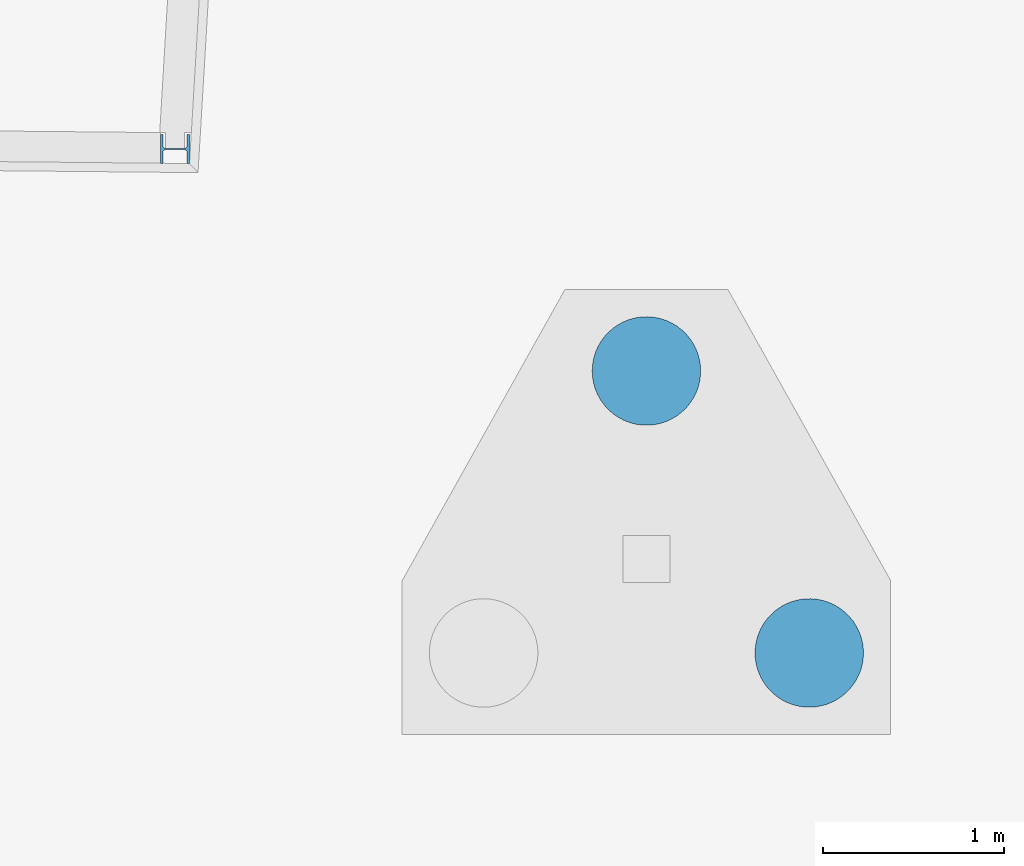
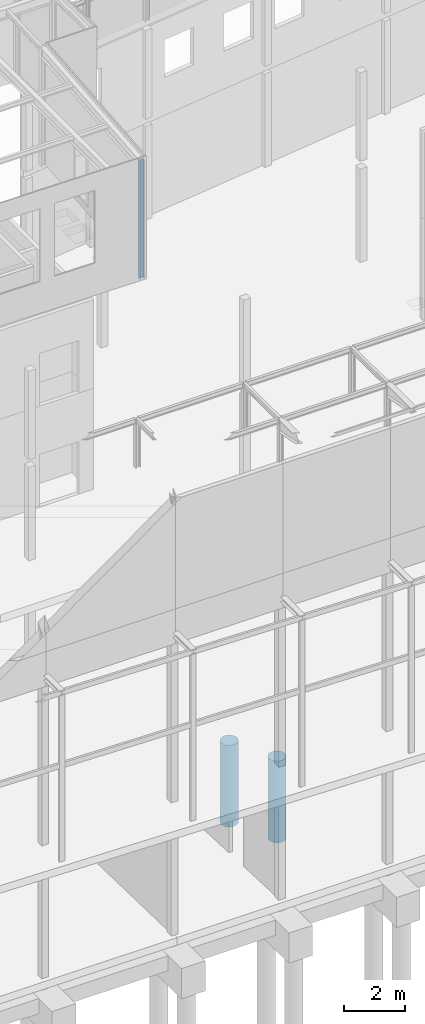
# One storey, part 39 of 82: 3 columns.
"""IFC2X3 building model written with IfcOpenShell, lengths in millimetres."""

from ifc_helpers import new_model, si_unit, frame, frame_2d, origin_with_axes, place, context, subcontext, project, spatial, circle, i_section, extrude, material, type_object, element, save


model = new_model("IFC2X3")

# Units and contexts
model_context = context("Model", 3, precision=1e-05, world=origin_with_axes())
body_context = subcontext(model_context, "Body", "Model", "MODEL_VIEW")
ifc_project = project(units=[si_unit("LENGTHUNIT", "METRE", prefix="MILLI"), si_unit("AREAUNIT", "SQUARE_METRE"), si_unit("VOLUMEUNIT", "CUBIC_METRE"), si_unit("MASSUNIT", "GRAM", prefix="KILO"), si_unit("TIMEUNIT", "SECOND"), si_unit("PLANEANGLEUNIT", "RADIAN"), si_unit("SOLIDANGLEUNIT", "STERADIAN"), si_unit("THERMODYNAMICTEMPERATUREUNIT", "DEGREE_CELSIUS"), si_unit("LUMINOUSINTENSITYUNIT", "LUMEN")], contexts=[model_context])

# Site, building, storey
site_placement = place(None, origin_with_axes())
site = spatial("IfcSite", under=ifc_project, at=site_placement, Name="Undefined", CompositionType="ELEMENT")
building_placement = place(site_placement, origin_with_axes())
building = spatial("IfcBuilding", under=site, at=building_placement, Name="Undefined", CompositionType="ELEMENT")
storey_placement = place(building_placement, origin_with_axes())
storey = spatial("IfcBuildingStorey", under=building, at=storey_placement, Name="Undefined", CompositionType="ELEMENT", Elevation=0.0)

# Columns
ifc_material_1 = material(Name="STEEL/S275JR")
column_type_1 = type_object("IfcColumnType", Name="HEB160", PredefinedType="NOTDEFINED")
column_placement = place(storey_placement, frame((34744.3131409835, 11566.2183908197, 17160.0), z_axis=(0.0, 0.0, 1.0), x_axis=(1.0, 0.0, 0.0)))
element("IfcColumn", 1, at=column_placement, inside=storey, type_object=column_type_1, material=ifc_material_1, Name="POTEAU", ObjectType="HEB160", context=body_context, shape_type="SweptSolid", body=[
    extrude(i_section(OverallWidth=160.0, OverallDepth=160.0, WebThickness=8.0, FlangeThickness=13.0, FilletRadius=15.0, at=frame_2d((5.17284206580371e-08, 4.49290382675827e-10), x_axis=(1.0, 0.0))), frame((0.0, 0.0, 4735.0), z_axis=(0.0, -6.50000002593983e-08, -0.999999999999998), x_axis=(-2.77555756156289e-17, -1.0, 0.0)), (0.0, 0.0, 1.0), 4735.0),
])
ifc_material_2 = material(Name="CONCRETE/C25/30")
column_type_2 = type_object("IfcColumnType", Name="D600", PredefinedType="NOTDEFINED")
for number, where, z_axis, x_axis in (
    (2, (38249.9999999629, 8780.39999992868, -4675.0), (0.0, 0.0, 1.0), (1.0, 0.0, 0.0)),
    (3, (37349.9999999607, 10339.1999999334, -4675.0), (0.0, 0.0, 1.0), (1.0, 0.0, 0.0)),
):
    element("IfcColumn", number, at=place(storey_placement, frame(where, z_axis=z_axis, x_axis=x_axis)), inside=storey, type_object=column_type_2, material=ifc_material_2, Name="PIEU", ObjectType="D600", context=body_context, shape_type="SweptSolid", body=[
        extrude(circle(Radius=300.0, at=frame_2d((5.17284206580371e-08, 4.49290382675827e-10), x_axis=(1.0, 0.0))), frame((0.0, 0.0, 3250.0), z_axis=(0.0, -6.50000002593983e-08, -0.999999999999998), x_axis=(-1.0, 0.0, 0.0)), (0.0, 0.0, 1.0), 3250.0),
    ])

save(model, "model.ifc")
